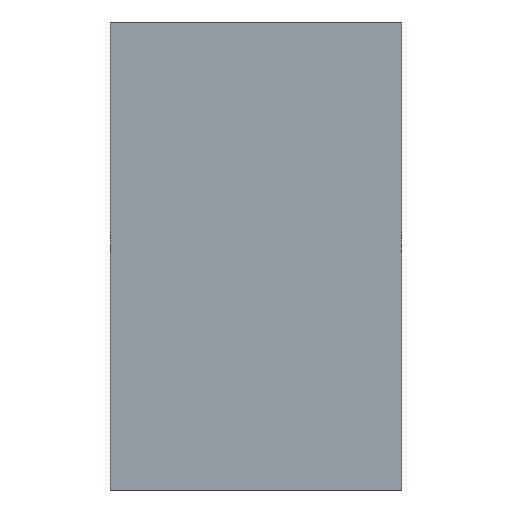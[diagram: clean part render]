
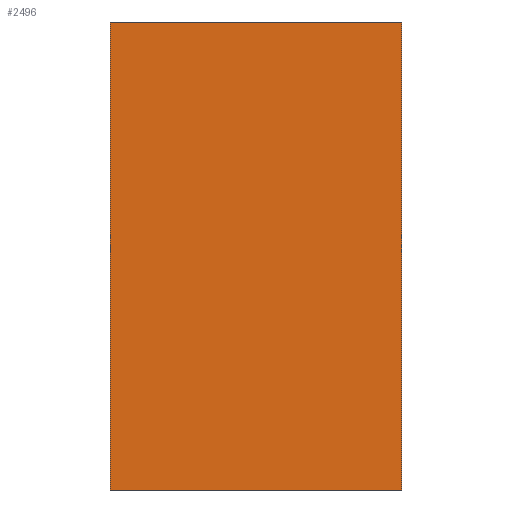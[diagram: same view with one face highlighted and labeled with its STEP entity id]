
A CAD part, top view. The second image highlights one B-rep face of the part: STEP entity #2496.
In plain terms, the highlighted planar face has unit normal (0, 0, 1) as drawn and (0, 0, -1) by its records, which use the part's own axes.
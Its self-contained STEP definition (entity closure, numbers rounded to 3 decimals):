
#2426=DIRECTION('',(0.,1.,0.));
#2427=VECTOR('',#2426,384.126);
#2428=CARTESIAN_POINT('',(119.561,-192.063,
-800.));
#2429=LINE('',#2428,#2427);
#2430=DIRECTION('',(-1.,0.,0.));
#2431=VECTOR('',#2430,239.122);
#2432=CARTESIAN_POINT('',(119.561,192.063,-800.));
#2433=LINE('',#2432,#2431);
#2434=DIRECTION('',(0.,1.,0.));
#2435=VECTOR('',#2434,384.126);
#2436=CARTESIAN_POINT('',(-119.561,-192.063,
-800.));
#2437=LINE('',#2436,#2435);
#2442=DIRECTION('',(-1.,0.,0.));
#2443=VECTOR('',#2442,239.122);
#2444=CARTESIAN_POINT('',(119.561,-192.063,
-800.));
#2445=LINE('',#2444,#2443);
#2458=CARTESIAN_POINT('',(119.561,-192.063,
-800.));
#2459=CARTESIAN_POINT('',(119.561,192.063,-800.));
#2460=VERTEX_POINT('',#2458);
#2461=VERTEX_POINT('',#2459);
#2464=CARTESIAN_POINT('',(-119.561,-192.063,
-800.));
#2465=CARTESIAN_POINT('',(-119.561,192.063,
-800.));
#2466=VERTEX_POINT('',#2464);
#2467=VERTEX_POINT('',#2465);
#2482=CARTESIAN_POINT('',(119.561,0.,-800.));
#2483=DIRECTION('',(0.,0.,-1.));
#2484=DIRECTION('',(-1.,0.,0.));
#2485=AXIS2_PLACEMENT_3D('',#2482,#2483,#2484);
#2486=PLANE('',#2485);
#2488=ORIENTED_EDGE('',*,*,#2487,.F.);
#2490=ORIENTED_EDGE('',*,*,#2489,.F.);
#2491=ORIENTED_EDGE('',*,*,#2473,.T.);
#2493=ORIENTED_EDGE('',*,*,#2492,.T.);
#2494=EDGE_LOOP('',(#2488,#2490,#2491,#2493));
#2495=FACE_OUTER_BOUND('',#2494,.F.);
#2473=EDGE_CURVE('',#2460,#2461,#2429,.T.);
#2487=EDGE_CURVE('',#2466,#2467,#2437,.T.);
#2489=EDGE_CURVE('',#2460,#2466,#2445,.T.);
#2492=EDGE_CURVE('',#2461,#2467,#2433,.T.);
#2496=ADVANCED_FACE('',(#2495),#2486,.T.);
